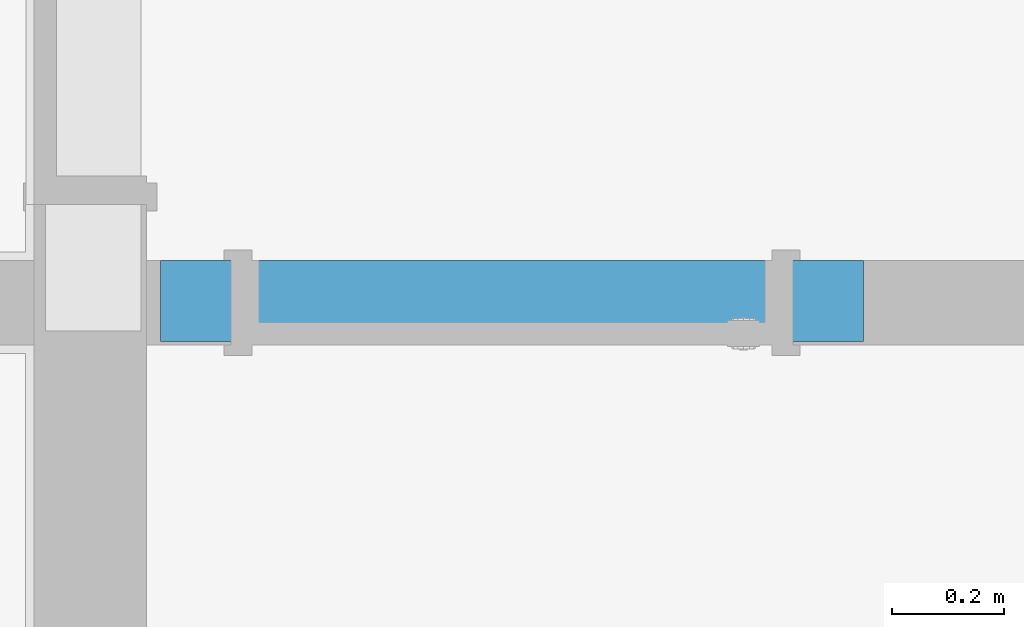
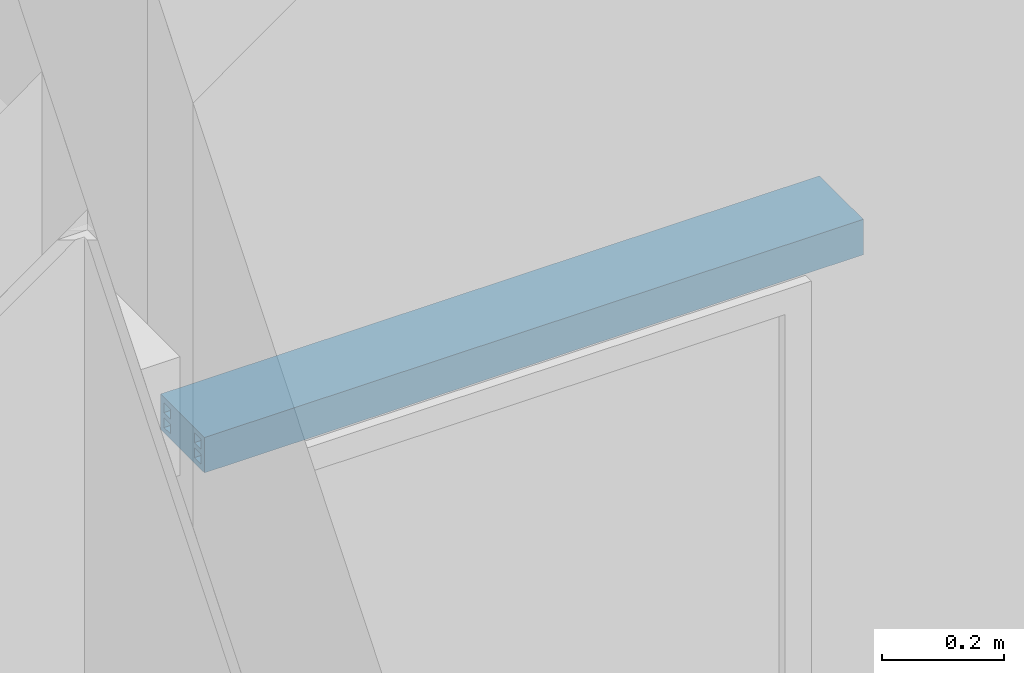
# One storey, part 2 of 21: 1 beam.
"""IFC4 building model written with IfcOpenShell, lengths in millimetres."""

from ifc_helpers import new_model, entity, si_unit, converted_unit, derived_unit, direction, frame, origin_with_axes, place, context, subcontext, project, spatial, polygons, source, transform, mapped, type_object, element, save


model = new_model("IFC4")

# Units and contexts
model_context = context("Model", 3, precision=0.01, world=origin_with_axes(), true_north=direction((0.0, 1.0)))
body_context = subcontext(model_context, "Body", "Model", "MODEL_VIEW")
ifc_project = project(units=[si_unit("LENGTHUNIT", "METRE", prefix="MILLI"), si_unit("AREAUNIT", "SQUARE_METRE"), si_unit("VOLUMEUNIT", "CUBIC_METRE"), converted_unit("PLANEANGLEUNIT", "DEGREE", entity("IfcPlaneAngleMeasure", 0.0174532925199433), si_unit("PLANEANGLEUNIT", "RADIAN"), dimensions=[0, 0, 0, 0, 0, 0, 0]), converted_unit("TIMEUNIT", "Year", entity("IfcTimeMeasure", 31557600.0), si_unit("TIMEUNIT", "SECOND"), dimensions=[0, 0, 1, 0, 0, 0, 0]), si_unit("MASSUNIT", "GRAM", prefix="KILO"), si_unit("THERMODYNAMICTEMPERATUREUNIT", "DEGREE_CELSIUS"), si_unit("LUMINOUSINTENSITYUNIT", "LUMEN"), si_unit("ENERGYUNIT", "JOULE", prefix="MEGA"), derived_unit("THERMALCONDUCTANCEUNIT", [(si_unit("POWERUNIT", "WATT"), 1), (si_unit("LENGTHUNIT", "METRE"), -1), (si_unit("THERMODYNAMICTEMPERATUREUNIT", "KELVIN"), -1)]), derived_unit("SPECIFICHEATCAPACITYUNIT", [(si_unit("ENERGYUNIT", "JOULE"), 1), (si_unit("MASSUNIT", "GRAM", prefix="KILO"), -1), (si_unit("THERMODYNAMICTEMPERATUREUNIT", "KELVIN"), -1)]), derived_unit("MASSDENSITYUNIT", [(si_unit("MASSUNIT", "GRAM", prefix="KILO"), 1), (si_unit("VOLUMEUNIT", "CUBIC_METRE"), -1)])], contexts=[model_context])

# Site, building, storey
site_placement = place(None, origin_with_axes())
site = spatial("IfcSite", under=ifc_project, at=site_placement, Name="Exteriér", CompositionType="ELEMENT")
building_placement = place(site_placement, origin_with_axes())
building = spatial("IfcBuilding", under=site, at=building_placement, Name="Univerzitní lezecké centrum", CompositionType="ELEMENT")
storey_placement = place(building_placement, frame((0.0, 0.0, -3350.0), z_axis=(0.0, 0.0, 1.0), x_axis=(1.0, 0.0, 0.0)))
storey = spatial("IfcBuildingStorey", under=building, at=storey_placement, Name="1.PP", CompositionType="ELEMENT", Elevation=-3350.0)

# Beam
beam_type = type_object("IfcBeamType", Name="PTH Překlad KP 11,5 a 14,5", PredefinedType="BEAM")
shared_shape = source(origin_with_axes(), body_context, "Body", "Tessellation", [
    polygons([(-625.0, 44.3486623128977, 71.00000000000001), (-625.0, 0.0, 71.00000000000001), (625.0, 0.0, 71.00000000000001), (625.0, 44.34866231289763, 71.00000000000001), (-625.0, 44.34866231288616, 36.49999605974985), (-625.0, 46.47223501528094, 31.73716465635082), (-625.0, 49.39641603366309, 27.4240948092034), (-625.0, 53.02998777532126, 23.69532943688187), (-625.0, 57.25960374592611, 20.66718452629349), (-625.0, 61.95332430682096, 18.4341207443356), (-625.0, 66.96473243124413, 17.06579680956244), (-625.0, 72.13750107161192, 16.60489654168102), (-625.0, 77.31026966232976, 17.06579737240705), (-625.0, 82.32167763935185, 18.43412185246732), (-625.0, 87.01539795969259, 20.66718614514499), (-625.0, 91.24501360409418, 23.69533151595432), (-625.0, 94.87858494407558, 27.42409728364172), (-625.0, 97.80276549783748, 31.7371674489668), (-625.0, 99.92633768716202, 36.49999908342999), (-625.0, 99.926337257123, 71.00000000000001), (-625.0, 144.274998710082, 71.0), (-625.0, 144.274998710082, 0.0), (-625.0, 0.0, 0.0), (-625.0, 11.4425, 10.49963740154), (-625.0, 33.3325, 10.49963740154), (-625.0, 33.3325, 30.49963740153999), (-625.0, 11.4425, 30.49963740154), (-625.0, 11.4425, 40.5), (-625.0, 33.3325, 40.5), (-625.0, 33.33250000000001, 60.5), (-625.0, 11.4425, 60.5), (-625.0, 132.83136377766, 10.49963740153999), (-625.0, 132.83136377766, 30.49963740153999), (-625.0, 110.94136377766, 30.49963740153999), (-625.0, 110.94136377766, 10.49963740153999), (-625.0, 110.94136377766, 60.49999999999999), (-625.0, 110.94136377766, 40.49999999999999), (-625.0, 132.83136377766, 40.49999999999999), (-625.0, 132.83136377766, 60.49999999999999), (625.0, 0.0, 0.0), (625.0, 144.2749987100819, 0.0), (625.0, 144.2749987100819, 71.0), (625.0, 99.92633725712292, 71.00000000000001), (625.0, 99.92633768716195, 36.49999908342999), (625.0, 97.80276549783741, 31.7371674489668), (625.0, 94.87858494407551, 27.42409728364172), (625.0, 91.24501360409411, 23.69533151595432), (625.0, 87.01539795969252, 20.66718614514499), (625.0, 82.32167763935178, 18.43412185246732), (625.0, 77.31026966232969, 17.06579737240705), (625.0, 72.13750107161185, 16.60489654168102), (625.0, 66.96473243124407, 17.06579680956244), (625.0, 61.95332430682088, 18.4341207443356), (625.0, 57.25960374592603, 20.66718452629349), (625.0, 53.02998777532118, 23.69532943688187), (625.0, 49.39641603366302, 27.4240948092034), (625.0, 46.47223501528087, 31.73716465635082), (625.0, 44.34866231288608, 36.49999605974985), (625.0, 11.44249999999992, 10.49963740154), (625.0, 11.44249999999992, 30.49963740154), (625.0, 33.33249999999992, 30.49963740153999), (625.0, 33.33249999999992, 10.49963740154), (625.0, 11.44249999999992, 40.5), (625.0, 11.44249999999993, 60.5), (625.0, 33.33249999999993, 60.5), (625.0, 33.33249999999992, 40.5), (625.0, 132.8313637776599, 10.49963740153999), (625.0, 110.9413637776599, 10.49963740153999), (625.0, 110.9413637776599, 30.49963740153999), (625.0, 132.8313637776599, 30.49963740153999), (625.0, 110.9413637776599, 60.49999999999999), (625.0, 132.8313637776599, 60.49999999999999), (625.0, 132.8313637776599, 40.49999999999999), (625.0, 110.9413637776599, 40.49999999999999)], [[[1, 2, 3, 4]], [[1, 5, 6, 7, 8, 9, 10, 11, 12, 13, 14, 15, 16, 17, 18, 19, 20, 21, 22, 23, 2], [24, 25, 26, 27], [28, 29, 30, 31], [32, 33, 34, 35], [36, 37, 38, 39]], [[2, 23, 40, 3]], [[4, 3, 40, 41, 42, 43, 44, 45, 46, 47, 48, 49, 50, 51, 52, 53, 54, 55, 56, 57, 58], [59, 60, 61, 62], [63, 64, 65, 66], [67, 68, 69, 70], [71, 72, 73, 74]], [[5, 1, 4, 58]], [[6, 5, 58, 57]], [[7, 6, 57, 56]], [[8, 7, 56, 55]], [[9, 8, 55, 54]], [[10, 9, 54, 53]], [[11, 10, 53, 52]], [[12, 11, 52, 51]], [[13, 12, 51, 50]], [[14, 13, 50, 49]], [[15, 14, 49, 48]], [[16, 15, 48, 47]], [[17, 16, 47, 46]], [[18, 17, 46, 45]], [[19, 18, 45, 44]], [[20, 19, 44, 43]], [[21, 20, 43, 42]], [[22, 21, 42, 41]], [[23, 22, 41, 40]], [[25, 24, 59, 62]], [[26, 25, 62, 61]], [[27, 26, 61, 60]], [[24, 27, 60, 59]], [[29, 28, 63, 66]], [[30, 29, 66, 65]], [[31, 30, 65, 64]], [[28, 31, 64, 63]], [[33, 32, 67, 70]], [[34, 33, 70, 69]], [[35, 34, 69, 68]], [[32, 35, 68, 67]], [[37, 36, 71, 74]], [[38, 37, 74, 73]], [[39, 38, 73, 72]], [[36, 39, 72, 71]]], closed=True),
    polygons([(-625.0, 44.34866231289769, 36.5), (-625.0, 46.47223492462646, 31.73716874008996), (625.0, 46.47223492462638, 31.73716874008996), (625.0, 44.34866231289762, 36.5), (-625.0, 44.3486623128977, 71.00000000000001), (-625.0, 99.926337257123, 71.00000000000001), (-625.0, 99.92633725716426, 36.50000000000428), (-625.0, 97.80276464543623, 31.7371687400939), (-625.0, 94.87858377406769, 27.42409899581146), (-625.0, 91.24501222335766, 23.69533367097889), (-625.0, 87.0153964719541, 20.66718874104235), (-625.0, 82.32167614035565, 18.43412486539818), (-625.0, 77.31026823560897, 17.06580075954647), (-625.0, 72.1374997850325, 16.60490024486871), (-625.0, 66.96473133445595, 17.06580075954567), (-625.0, 61.95332342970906, 18.4341248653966), (-625.0, 57.25960309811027, 20.66718874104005), (-625.0, 53.02998734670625, 23.69533367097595), (-625.0, 49.39641579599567, 27.42409899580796), (-625.0, 78.10749978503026, 42.49999925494), (-625.0, 78.01680207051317, 43.54188832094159), (-625.0, 77.74746473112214, 44.55212011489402), (-625.0, 77.30767144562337, 45.49999925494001), (-625.0, 76.71078511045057, 46.35672491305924), (-625.0, 75.97494181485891, 47.09626591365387), (-625.0, 75.12249978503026, 47.69615167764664), (-625.0, 74.17936004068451, 48.13815497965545), (-625.0, 73.17417940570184, 48.40884577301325), (-625.0, 72.13749978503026, 48.49999925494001), (-625.0, 71.1008201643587, 48.40884577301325), (-625.0, 70.09563952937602, 48.13815497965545), (-625.0, 69.15249978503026, 47.69615167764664), (-625.0, 68.30005775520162, 47.09626591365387), (-625.0, 67.56421445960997, 46.35672491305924), (-625.0, 66.96732812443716, 45.49999925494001), (-625.0, 66.5275348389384, 44.55212011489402), (-625.0, 66.25819749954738, 43.54188832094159), (-625.0, 66.16749978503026, 42.49999925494), (-625.0, 66.25819749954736, 41.45811018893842), (-625.0, 66.52753483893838, 40.44787839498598), (-625.0, 66.96732812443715, 39.49999925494), (-625.0, 67.56421445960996, 38.64327359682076), (-625.0, 68.3000577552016, 37.90373259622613), (-625.0, 69.15249978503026, 37.30384683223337), (-625.0, 70.09563952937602, 36.86184353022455), (-625.0, 71.1008201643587, 36.59115273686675), (-625.0, 72.13749978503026, 36.49999925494), (-625.0, 73.17417940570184, 36.59115273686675), (-625.0, 74.17936004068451, 36.86184353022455), (-625.0, 75.12249978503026, 37.30384683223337), (-625.0, 75.9749418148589, 37.90373259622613), (-625.0, 76.71078511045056, 38.64327359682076), (-625.0, 77.30767144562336, 39.49999925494), (-625.0, 77.74746473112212, 40.44787839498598), (-625.0, 78.01680207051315, 41.45811018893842), (625.0, 49.39641579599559, 27.42409899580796), (625.0, 53.02998734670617, 23.69533367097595), (625.0, 57.25960309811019, 20.66718874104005), (625.0, 61.95332342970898, 18.4341248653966), (625.0, 66.96473133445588, 17.06580075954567), (625.0, 72.13749978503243, 16.60490024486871), (625.0, 77.3102682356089, 17.06580075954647), (625.0, 82.32167614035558, 18.43412486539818), (625.0, 87.01539647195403, 20.66718874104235), (625.0, 91.24501222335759, 23.69533367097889), (625.0, 94.87858377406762, 27.42409899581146), (625.0, 97.80276464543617, 31.7371687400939), (625.0, 99.92633725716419, 36.50000000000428), (625.0, 99.92633725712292, 71.00000000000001), (625.0, 44.34866231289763, 71.00000000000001), (625.0, 78.10749978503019, 42.49999925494), (625.0, 78.01680207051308, 41.45811018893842), (625.0, 77.74746473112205, 40.44787839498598), (625.0, 77.30767144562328, 39.49999925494), (625.0, 76.71078511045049, 38.64327359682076), (625.0, 75.97494181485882, 37.90373259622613), (625.0, 75.12249978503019, 37.30384683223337), (625.0, 74.17936004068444, 36.86184353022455), (625.0, 73.17417940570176, 36.59115273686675), (625.0, 72.13749978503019, 36.49999925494), (625.0, 71.10082016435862, 36.59115273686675), (625.0, 70.09563952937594, 36.86184353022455), (625.0, 69.15249978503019, 37.30384683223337), (625.0, 68.30005775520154, 37.90373259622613), (625.0, 67.56421445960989, 38.64327359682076), (625.0, 66.96732812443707, 39.49999925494), (625.0, 66.52753483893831, 40.44787839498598), (625.0, 66.2581974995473, 41.45811018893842), (625.0, 66.16749978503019, 42.49999925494), (625.0, 66.25819749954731, 43.54188832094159), (625.0, 66.52753483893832, 44.55212011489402), (625.0, 66.96732812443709, 45.49999925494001), (625.0, 67.5642144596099, 46.35672491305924), (625.0, 68.30005775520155, 47.09626591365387), (625.0, 69.15249978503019, 47.69615167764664), (625.0, 70.09563952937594, 48.13815497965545), (625.0, 71.10082016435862, 48.40884577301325), (625.0, 72.13749978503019, 48.49999925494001), (625.0, 73.17417940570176, 48.40884577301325), (625.0, 74.17936004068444, 48.13815497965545), (625.0, 75.12249978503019, 47.69615167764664), (625.0, 75.97494181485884, 47.09626591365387), (625.0, 76.7107851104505, 46.35672491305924), (625.0, 77.3076714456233, 45.49999925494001), (625.0, 77.74746473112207, 44.55212011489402), (625.0, 78.0168020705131, 43.54188832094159)], [[[1, 2, 3, 4]], [[1, 5, 6, 7, 8, 9, 10, 11, 12, 13, 14, 15, 16, 17, 18, 19, 2], [20, 21, 22, 23, 24, 25, 26, 27, 28, 29, 30, 31, 32, 33, 34, 35, 36, 37, 38, 39, 40, 41, 42, 43, 44, 45, 46, 47, 48, 49, 50, 51, 52, 53, 54, 55]], [[2, 19, 56, 3]], [[4, 3, 56, 57, 58, 59, 60, 61, 62, 63, 64, 65, 66, 67, 68, 69, 70], [71, 72, 73, 74, 75, 76, 77, 78, 79, 80, 81, 82, 83, 84, 85, 86, 87, 88, 89, 90, 91, 92, 93, 94, 95, 96, 97, 98, 99, 100, 101, 102, 103, 104, 105, 106]], [[5, 1, 4, 70]], [[6, 5, 70, 69]], [[7, 6, 69, 68]], [[8, 7, 68, 67]], [[9, 8, 67, 66]], [[10, 9, 66, 65]], [[11, 10, 65, 64]], [[12, 11, 64, 63]], [[13, 12, 63, 62]], [[14, 13, 62, 61]], [[15, 14, 61, 60]], [[16, 15, 60, 59]], [[17, 16, 59, 58]], [[18, 17, 58, 57]], [[19, 18, 57, 56]], [[21, 20, 71, 106]], [[22, 21, 106, 105]], [[23, 22, 105, 104]], [[24, 23, 104, 103]], [[25, 24, 103, 102]], [[26, 25, 102, 101]], [[27, 26, 101, 100]], [[28, 27, 100, 99]], [[29, 28, 99, 98]], [[30, 29, 98, 97]], [[31, 30, 97, 96]], [[32, 31, 96, 95]], [[33, 32, 95, 94]], [[34, 33, 94, 93]], [[35, 34, 93, 92]], [[36, 35, 92, 91]], [[37, 36, 91, 90]], [[38, 37, 90, 89]], [[39, 38, 89, 88]], [[40, 39, 88, 87]], [[41, 40, 87, 86]], [[42, 41, 86, 85]], [[43, 42, 85, 84]], [[44, 43, 84, 83]], [[45, 44, 83, 82]], [[46, 45, 82, 81]], [[47, 46, 81, 80]], [[48, 47, 80, 79]], [[49, 48, 79, 78]], [[50, 49, 78, 77]], [[51, 50, 77, 76]], [[52, 51, 76, 75]], [[53, 52, 75, 74]], [[54, 53, 74, 73]], [[55, 54, 73, 72]], [[20, 55, 72, 71]]], closed=True),
    polygons([(-625.0, 66.16749978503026, 42.49999925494), (-625.0, 66.25819749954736, 41.45811018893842), (625.0, 66.2581974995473, 41.45811018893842), (625.0, 66.16749978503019, 42.49999925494), (-625.0, 66.25819749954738, 43.54188832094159), (-625.0, 66.5275348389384, 44.55212011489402), (-625.0, 66.96732812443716, 45.49999925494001), (-625.0, 67.56421445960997, 46.35672491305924), (-625.0, 68.30005775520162, 47.09626591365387), (-625.0, 69.15249978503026, 47.69615167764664), (-625.0, 70.09563952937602, 48.13815497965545), (-625.0, 71.1008201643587, 48.40884577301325), (-625.0, 72.13749978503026, 48.49999925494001), (-625.0, 73.17417940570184, 48.40884577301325), (-625.0, 74.17936004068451, 48.13815497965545), (-625.0, 75.12249978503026, 47.69615167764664), (-625.0, 75.97494181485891, 47.09626591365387), (-625.0, 76.71078511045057, 46.35672491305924), (-625.0, 77.30767144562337, 45.49999925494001), (-625.0, 77.74746473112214, 44.55212011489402), (-625.0, 78.01680207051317, 43.54188832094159), (-625.0, 78.10749978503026, 42.49999925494), (-625.0, 78.01680207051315, 41.45811018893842), (-625.0, 77.74746473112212, 40.44787839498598), (-625.0, 77.30767144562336, 39.49999925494), (-625.0, 76.71078511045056, 38.64327359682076), (-625.0, 75.9749418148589, 37.90373259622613), (-625.0, 75.12249978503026, 37.30384683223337), (-625.0, 74.17936004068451, 36.86184353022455), (-625.0, 73.17417940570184, 36.59115273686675), (-625.0, 72.13749978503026, 36.49999925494), (-625.0, 71.1008201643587, 36.59115273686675), (-625.0, 70.09563952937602, 36.86184353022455), (-625.0, 69.15249978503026, 37.30384683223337), (-625.0, 68.3000577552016, 37.90373259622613), (-625.0, 67.56421445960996, 38.64327359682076), (-625.0, 66.96732812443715, 39.49999925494), (-625.0, 66.52753483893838, 40.44787839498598), (625.0, 66.52753483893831, 40.44787839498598), (625.0, 66.96732812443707, 39.49999925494), (625.0, 67.56421445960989, 38.64327359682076), (625.0, 68.30005775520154, 37.90373259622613), (625.0, 69.15249978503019, 37.30384683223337), (625.0, 70.09563952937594, 36.86184353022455), (625.0, 71.10082016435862, 36.59115273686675), (625.0, 72.13749978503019, 36.49999925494), (625.0, 73.17417940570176, 36.59115273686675), (625.0, 74.17936004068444, 36.86184353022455), (625.0, 75.12249978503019, 37.30384683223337), (625.0, 75.97494181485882, 37.90373259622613), (625.0, 76.71078511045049, 38.64327359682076), (625.0, 77.30767144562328, 39.49999925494), (625.0, 77.74746473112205, 40.44787839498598), (625.0, 78.01680207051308, 41.45811018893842), (625.0, 78.10749978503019, 42.49999925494), (625.0, 78.0168020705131, 43.54188832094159), (625.0, 77.74746473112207, 44.55212011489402), (625.0, 77.3076714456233, 45.49999925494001), (625.0, 76.7107851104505, 46.35672491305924), (625.0, 75.97494181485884, 47.09626591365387), (625.0, 75.12249978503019, 47.69615167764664), (625.0, 74.17936004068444, 48.13815497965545), (625.0, 73.17417940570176, 48.40884577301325), (625.0, 72.13749978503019, 48.49999925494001), (625.0, 71.10082016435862, 48.40884577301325), (625.0, 70.09563952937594, 48.13815497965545), (625.0, 69.15249978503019, 47.69615167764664), (625.0, 68.30005775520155, 47.09626591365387), (625.0, 67.5642144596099, 46.35672491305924), (625.0, 66.96732812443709, 45.49999925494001), (625.0, 66.52753483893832, 44.55212011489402), (625.0, 66.25819749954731, 43.54188832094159)], [[[1, 2, 3, 4]], [[1, 5, 6, 7, 8, 9, 10, 11, 12, 13, 14, 15, 16, 17, 18, 19, 20, 21, 22, 23, 24, 25, 26, 27, 28, 29, 30, 31, 32, 33, 34, 35, 36, 37, 38, 2]], [[2, 38, 39, 3]], [[4, 3, 39, 40, 41, 42, 43, 44, 45, 46, 47, 48, 49, 50, 51, 52, 53, 54, 55, 56, 57, 58, 59, 60, 61, 62, 63, 64, 65, 66, 67, 68, 69, 70, 71, 72]], [[5, 1, 4, 72]], [[6, 5, 72, 71]], [[7, 6, 71, 70]], [[8, 7, 70, 69]], [[9, 8, 69, 68]], [[10, 9, 68, 67]], [[11, 10, 67, 66]], [[12, 11, 66, 65]], [[13, 12, 65, 64]], [[14, 13, 64, 63]], [[15, 14, 63, 62]], [[16, 15, 62, 61]], [[17, 16, 61, 60]], [[18, 17, 60, 59]], [[19, 18, 59, 58]], [[20, 19, 58, 57]], [[21, 20, 57, 56]], [[22, 21, 56, 55]], [[23, 22, 55, 54]], [[24, 23, 54, 53]], [[25, 24, 53, 52]], [[26, 25, 52, 51]], [[27, 26, 51, 50]], [[28, 27, 50, 49]], [[29, 28, 49, 48]], [[30, 29, 48, 47]], [[31, 30, 47, 46]], [[32, 31, 46, 45]], [[33, 32, 45, 44]], [[34, 33, 44, 43]], [[35, 34, 43, 42]], [[36, 35, 42, 41]], [[37, 36, 41, 40]], [[38, 37, 40, 39]]], closed=True),
])
beam_placement = place(storey_placement, frame((-1300.408868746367, 949.9999999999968, 2030.0), z_axis=(0.0, 0.0, 1.0), x_axis=(-1.0, 0.0, 0.0)))
element("IfcBeam", 1, at=beam_placement, inside=storey, type_object=beam_type, Name="Pk02", PredefinedType="BEAM", context=body_context, shape_type="MappedRepresentation", body=[
    mapped(shared_shape, transform((0.0, 0.0, 0.0))),
])

save(model, "model.ifc")
